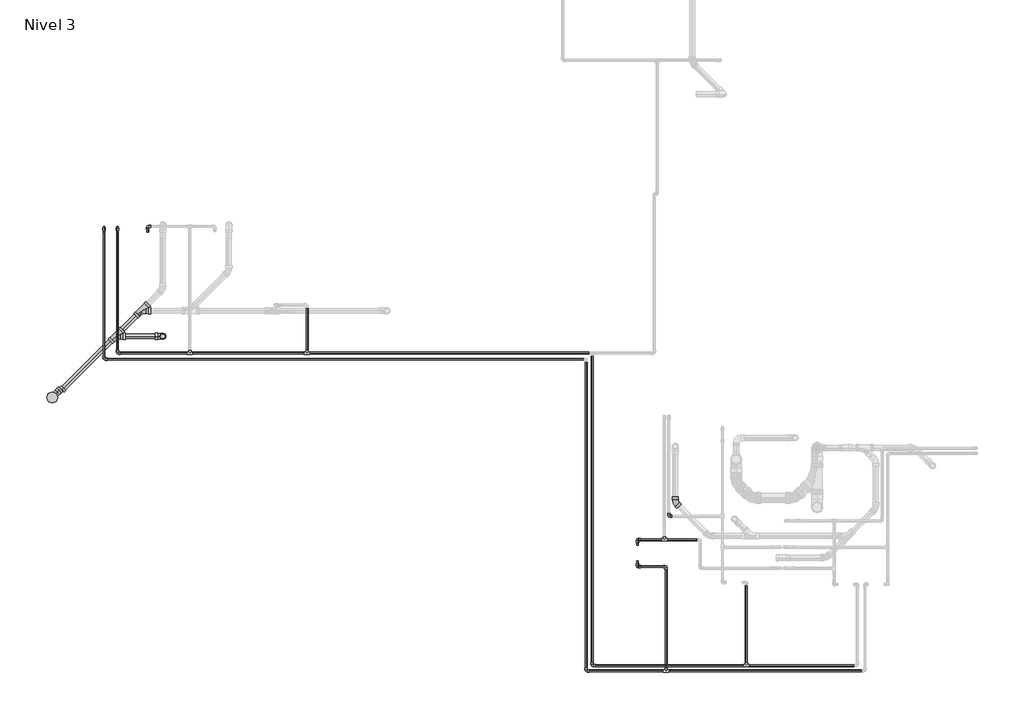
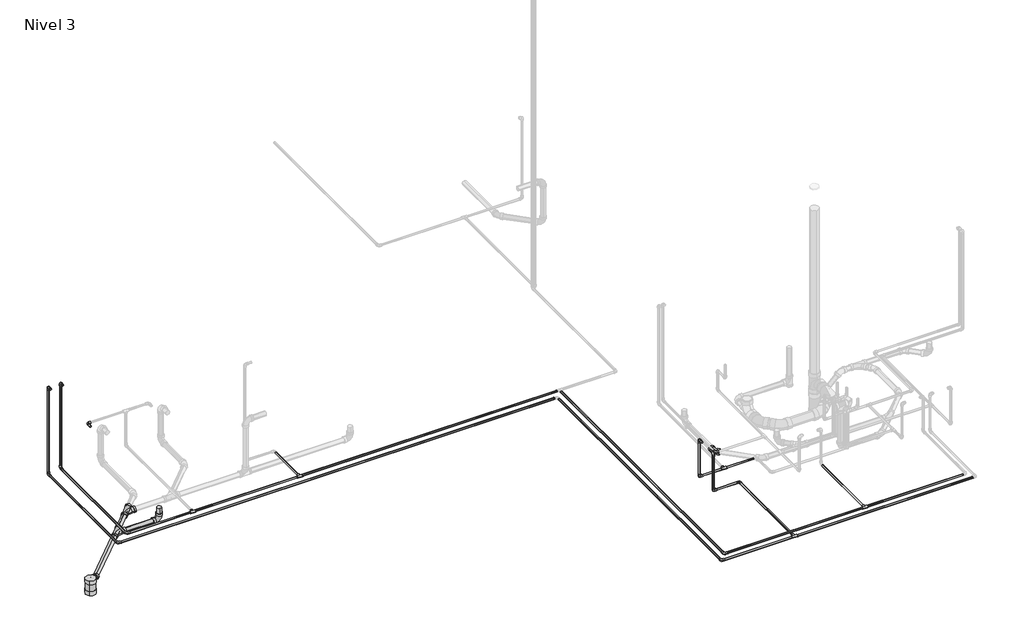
# One storey, part 1 of 9: 31 pipe segments, 26 pipe fittings.
"""IFC4 building model written with IfcOpenShell, lengths in millimetres."""

from ifc_helpers import new_model, si_unit, point, frame, frame_2d, origin, place, context, project, spatial, circle_curve, trimmed, segment, composite_curve, outline, extrude, transform, mapped, element, save
from components import pipe_fitting_ab418b84, pipe_fitting_0163322b, pipe_fitting_f7ed332b, m_codo_pvc_serie_40_9ad74631, m_codo_pvc_serie_40_dwv1_5c0ec739, m_codo_pvc_serie_40_dwv1_6f1a2495, m_reductor_pvc_serie_40_dwv1_ff30086d

model = new_model("IFC4")

# Units and contexts
model_context = context("Model", 3, world=origin())
ifc_project = project(units=[si_unit("LENGTHUNIT", "METRE", prefix="MILLI")], contexts=[model_context])

# Site, building, storey
site = spatial("IfcSite", under=ifc_project)
building = spatial("IfcBuilding", under=site)
storey = spatial("IfcBuildingStorey", under=building, Name="Nivel 3", Elevation=5450.0)

# Pipe fittings
placement = place(None, origin())
pipe_fitting_shape = pipe_fitting_ab418b84(model_context)
element("IfcPipeFitting", 1, ObjectType="M_Te - PVC - Serie 40 : Estándar", at=placement, inside=storey, context=model_context, shape_type="MappedRepresentation", body=[
    mapped(pipe_fitting_shape, transform((1725.1353284, 7617.0181394, 5400.0), x_axis=(1.0, 0.0, 0.0), y_axis=(0.0, -1.0, 0.0), z_axis=(0.0, 0.0, -1.0))),
])
element("IfcPipeFitting", 2, ObjectType="M_Te - PVC - Serie 40 : Estándar", at=placement, inside=storey, context=model_context, shape_type="MappedRepresentation", body=[
    mapped(pipe_fitting_shape, transform((411.6630441, 7617.0181394, 5400.0), x_axis=(1.0, 0.0, 0.0), y_axis=(0.0, -1.0, 0.0), z_axis=(0.0, 0.0, -1.0))),
])
element("IfcPipeFitting", 3, ObjectType="M_Te - PVC - Serie 40 : Estándar", at=placement, inside=storey, context=model_context, shape_type="MappedRepresentation", body=[
    mapped(pipe_fitting_shape, transform((6640.0882468, 4117.0181394, 5400.0), x_axis=(-1.0, 0.0, 0.0), y_axis=(0.0, -1.0, 0.0), z_axis=(0.0, 0.0, 1.0))),
])
element("IfcPipeFitting", 4, ObjectType="M_Te - PVC - Serie 40 : Estándar", at=placement, inside=storey, context=model_context, shape_type="MappedRepresentation", body=[
    mapped(pipe_fitting_shape, transform((5743.2442783, 4058.5261191, 5370.0), x_axis=(-1.0, 0.0, 0.0), y_axis=(0.0, -1.0, 0.0), z_axis=(0.0, 0.0, 1.0))),
])
element("IfcPipeFitting", 5, ObjectType="M_Te - PVC - Serie 40 : Estándar", at=placement, inside=storey, context=model_context, shape_type="MappedRepresentation", body=[
    mapped(pipe_fitting_shape, transform((5723.2442783, 5526.6215833, 5370.0), x_axis=(-1.0, 0.0, 0.0), y_axis=(0.0, -1.0, 0.0), z_axis=(0.0, 0.0, 1.0))),
])
pipe_fitting_2_shape = pipe_fitting_0163322b(model_context)
element("IfcPipeFitting", 6, ObjectType="M_Sanitario con te de reducción - PVC - Serie 40 - DWV : Estándar", at=placement, inside=storey, context=model_context, shape_type="MappedRepresentation", body=[
    mapped(pipe_fitting_2_shape, transform((-133.7971122, 8091.4220022, 5300.0), x_axis=(0.7071067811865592, 0.7071067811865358, 0.0), y_axis=(-0.7071067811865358, 0.7071067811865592, 0.0), z_axis=(0.0, 0.0, 1.0))),
])
element("IfcPipeFitting", 7, ObjectType="M_Sanitario con te de reducción - PVC - Serie 40 - DWV : Estándar", at=placement, inside=storey, context=model_context, shape_type="MappedRepresentation", body=[
    mapped(pipe_fitting_2_shape, transform((-420.2517933, 7804.9673212, 5300.0), x_axis=(0.707106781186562, 0.707106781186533, 0.0), y_axis=(-0.707106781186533, 0.707106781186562, 0.0), z_axis=(0.0, 0.0, 1.0))),
])
pipe_fitting_3_shape = pipe_fitting_f7ed332b(model_context)
element("IfcPipeFitting", 8, ObjectType="M_Sanitario con te de reducción - PVC - Serie 40 - DWV : Estándar", at=placement, inside=storey, context=model_context, shape_type="MappedRepresentation", body=[
    mapped(pipe_fitting_3_shape, transform((-1128.3876566, 7119.3043981, 5300.0), x_axis=(0.0, 0.0, 1.0), y_axis=(-0.7071067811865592, -0.7071067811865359, 0.0), z_axis=(0.7071067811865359, -0.7071067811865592, 0.0))),
])
m_codo_pvc_serie_40_shape = m_codo_pvc_serie_40_9ad74631(model_context)
element("IfcPipeFitting", 9, ObjectType="M_Codo - PVC - Serie 40 : Estándar", at=placement, inside=storey, context=model_context, shape_type="MappedRepresentation", body=[
    mapped(m_codo_pvc_serie_40_shape, transform((-58.7971122, 9037.0181394, 5850.0), x_axis=(-1.0, 0.0, 0.0), y_axis=(0.0, -1.0, 0.0), z_axis=(0.0, 0.0, 1.0))),
])
element("IfcPipeFitting", 10, ObjectType="M_Codo - PVC - Serie 40 : Estándar", at=placement, inside=storey, context=model_context, shape_type="MappedRepresentation", body=[
    mapped(m_codo_pvc_serie_40_shape, transform((4915.0072403, 4117.0181394, 5400.0), x_axis=(0.0, -1.0, 0.0), y_axis=(1.0, 0.0, 0.0), z_axis=(0.0, 0.0, 1.0))),
])
element("IfcPipeFitting", 11, ObjectType="M_Codo - PVC - Serie 40 : Estándar", at=placement, inside=storey, context=model_context, shape_type="MappedRepresentation", body=[
    mapped(m_codo_pvc_serie_40_shape, transform((5773.4849581, 5788.5620607, 5400.0), x_axis=(0.0, -1.0, 0.0), y_axis=(1.0, 0.0, 0.0), z_axis=(0.0, 0.0, 1.0))),
])
element("IfcPipeFitting", 12, ObjectType="M_Codo - PVC - Serie 40 : Estándar", at=placement, inside=storey, context=model_context, shape_type="MappedRepresentation", body=[
    mapped(m_codo_pvc_serie_40_shape, transform((4848.2736664, 4058.5261191, 5370.0), x_axis=(0.0, -1.0, 0.0), y_axis=(1.0, 0.0, 0.0), z_axis=(0.0, 0.0, 1.0))),
])
element("IfcPipeFitting", 13, ObjectType="M_Codo - PVC - Serie 40 : Estándar", at=placement, inside=storey, context=model_context, shape_type="MappedRepresentation", body=[
    mapped(m_codo_pvc_serie_40_shape, transform((5743.2442783, 5226.6215833, 5370.0), x_axis=(0.0, 1.0, 0.0), y_axis=(-1.0, 0.0, 0.0), z_axis=(0.0, 0.0, 1.0))),
])
element("IfcPipeFitting", 14, ObjectType="M_Codo - PVC - Serie 40 : Estándar", at=placement, inside=storey, context=model_context, shape_type="MappedRepresentation", body=[
    mapped(m_codo_pvc_serie_40_shape, transform((5423.2442783, 5226.6215833, 5370.0), x_axis=(-1.0, 0.0, 0.0), y_axis=(0.0, 0.0, 1.0), z_axis=(0.0, 1.0, 0.0))),
])
element("IfcPipeFitting", 15, ObjectType="M_Codo - PVC - Serie 40 : Estándar", at=placement, inside=storey, context=model_context, shape_type="MappedRepresentation", body=[
    mapped(m_codo_pvc_serie_40_shape, transform((5423.2442783, 5226.6215833, 5850.0), x_axis=(0.0, 0.0, 1.0), y_axis=(0.0, 1.0, 0.0), z_axis=(-1.0, 0.0, 0.0))),
])
element("IfcPipeFitting", 16, ObjectType="M_Codo - PVC - Serie 40 : Estándar", at=placement, inside=storey, context=model_context, shape_type="MappedRepresentation", body=[
    mapped(m_codo_pvc_serie_40_shape, transform((5423.2442783, 5526.6215833, 5850.0), x_axis=(0.0, 1.0, 0.0), y_axis=(0.0, 0.0, -1.0), z_axis=(-1.0, 0.0, 0.0))),
])
element("IfcPipeFitting", 17, ObjectType="M_Codo - PVC - Serie 40 : Estándar", at=placement, inside=storey, context=model_context, shape_type="MappedRepresentation", body=[
    mapped(m_codo_pvc_serie_40_shape, transform((5423.2442783, 5526.6215833, 5370.0), x_axis=(0.0, 0.0, -1.0), y_axis=(1.0, 0.0, 0.0), z_axis=(0.0, -1.0, 0.0))),
])
element("IfcPipeFitting", 18, ObjectType="M_Codo - PVC - Serie 40 : Estándar", at=placement, inside=storey, context=model_context, shape_type="MappedRepresentation", body=[
    mapped(m_codo_pvc_serie_40_shape, transform((-397.4678009, 9023.6516968, 6500.0), x_axis=(0.0, 1.0, 0.0), y_axis=(0.0, 0.0, -1.0), z_axis=(-1.0, 0.0, 0.0))),
])
element("IfcPipeFitting", 19, ObjectType="M_Codo - PVC - Serie 40 : Estándar", at=placement, inside=storey, context=model_context, shape_type="MappedRepresentation", body=[
    mapped(m_codo_pvc_serie_40_shape, transform((-397.4678009, 9023.6516968, 5400.0), x_axis=(0.0, 0.0, -1.0), y_axis=(0.0, -1.0, 0.0), z_axis=(-1.0, 0.0, 0.0))),
])
element("IfcPipeFitting", 20, ObjectType="M_Codo - PVC - Serie 40 : Estándar", at=placement, inside=storey, context=model_context, shape_type="MappedRepresentation", body=[
    mapped(m_codo_pvc_serie_40_shape, transform((-547.4678009, 9023.6516968, 6500.0), x_axis=(0.0, 1.0, 0.0), y_axis=(0.0, 0.0, -1.0), z_axis=(-1.0, 0.0, 0.0))),
])
element("IfcPipeFitting", 21, ObjectType="M_Codo - PVC - Serie 40 : Estándar", at=placement, inside=storey, context=model_context, shape_type="MappedRepresentation", body=[
    mapped(m_codo_pvc_serie_40_shape, transform((-547.4678009, 9023.6516968, 5370.0), x_axis=(0.0, 0.0, -1.0), y_axis=(0.0, -1.0, 0.0), z_axis=(-1.0, 0.0, 0.0))),
])
element("IfcPipeFitting", 22, ObjectType="M_Codo - PVC - Serie 40 : Estándar", at=placement, inside=storey, context=model_context, shape_type="MappedRepresentation", body=[
    mapped(m_codo_pvc_serie_40_shape, transform((-547.4678009, 7548.5261191, 5370.0), x_axis=(0.0, -1.0, 0.0), y_axis=(1.0, 0.0, 0.0), z_axis=(0.0, 0.0, 1.0))),
])
element("IfcPipeFitting", 23, ObjectType="M_Codo - PVC - Serie 40 : Estándar", at=placement, inside=storey, context=model_context, shape_type="MappedRepresentation", body=[
    mapped(m_codo_pvc_serie_40_shape, transform((-397.4678009, 7617.0181394, 5400.0), x_axis=(0.0, -1.0, 0.0), y_axis=(1.0, 0.0, 0.0), z_axis=(0.0, 0.0, 1.0))),
])
m_codo_pvc_serie_40_dwv1_shape = m_codo_pvc_serie_40_dwv1_5c0ec739(model_context)
element("IfcPipeFitting", 24, ObjectType="M_Codo - PVC - Serie 40 - DWV1 : Estándar 2", at=placement, inside=storey, context=model_context, shape_type="MappedRepresentation", body=[
    mapped(m_codo_pvc_serie_40_dwv1_shape, transform((109.5958692, 7804.9673212, 5300.0), x_axis=(1.0, 0.0, 0.0), y_axis=(0.0, 0.0, 1.0), z_axis=(0.0, -1.0, 0.0))),
])
m_codo_pvc_serie_40_dwv1_2_shape = m_codo_pvc_serie_40_dwv1_6f1a2495(model_context)
element("IfcPipeFitting", 25, ObjectType="M_Codo - PVC - Serie 40 - DWV1 : Estándar 2", at=placement, inside=storey, context=model_context, shape_type="MappedRepresentation", body=[
    mapped(m_codo_pvc_serie_40_dwv1_2_shape, transform((5845.3355737, 5944.0282832, 5300.0), x_axis=(0.0, -1.0, 0.0), y_axis=(1.0, 0.0, 0.0), z_axis=(0.0, 0.0, 1.0))),
])
m_reductor_pvc_serie_40_dwv1_shape = m_reductor_pvc_serie_40_dwv1_ff30086d(model_context)
element("IfcPipeFitting", 26, ObjectType="M_Reductor - PVC - Serie 40 - DWV1 : Estándar 2", at=placement, inside=storey, context=model_context, shape_type="MappedRepresentation", body=[
    mapped(m_reductor_pvc_serie_40_dwv1_shape, transform((-1051.5138579, 7196.1781968, 5300.0), x_axis=(0.7071067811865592, 0.7071067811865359, 0.0), y_axis=(-0.7071067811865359, 0.7071067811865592, 0.0), z_axis=(0.0, 0.0, 1.0))),
])

# Pipe segments
element("IfcPipeSegment", 27, ObjectType="Tuberia PVC Agua Fria", at=placement, inside=storey, context=model_context, shape_type="SweptSolid", body=[
    extrude(outline(composite_curve([segment(trimmed(circle_curve(frame_2d((5400.0, 1725.1353284)), 10.31875), [point((5400.0, 1735.4540784))], [point((5410.31875, 1725.1353284))], False, "CARTESIAN"), True, "CONTINUOUS"), segment(trimmed(circle_curve(frame_2d((5400.0, 1725.1353284)), 10.31875), [point((5410.31875, 1725.1353284))], [point((5400.0, 1714.8165784))], False, "CARTESIAN"), True, "CONTINUOUS"), segment(trimmed(circle_curve(frame_2d((5400.0, 1725.1353284)), 10.31875), [point((5400.0, 1714.8165784))], [point((5389.68125, 1725.1353284))], False, "CARTESIAN"), True, "CONTINUOUS"), segment(trimmed(circle_curve(frame_2d((5400.0, 1725.1353284)), 10.31875), [point((5389.68125, 1725.1353284))], [point((5400.0, 1735.4540784))], False, "CARTESIAN"), True, "CONTINUOUS")], self_intersect=False)), frame((0.0, 7647.4782956, 0.0), z_axis=(0.0, 1.0, 0.0), x_axis=(0.0, 0.0, 1.0)), (0.0, 0.0, 1.0), 476.1388438),
])
element("IfcPipeSegment", 28, ObjectType="Tuberia PVC Agua Fria", at=placement, inside=storey, context=model_context, shape_type="SweptSolid", body=[
    extrude(outline(composite_curve([segment(trimmed(circle_curve(frame_2d((7617.0181394, 5400.0)), 10.31875), [point((7627.3368894, 5400.0))], [point((7617.0181394, 5389.68125))], False, "CARTESIAN"), True, "CONTINUOUS"), segment(trimmed(circle_curve(frame_2d((7617.0181394, 5400.0)), 10.31875), [point((7617.0181394, 5389.68125))], [point((7606.6993894, 5400.0))], False, "CARTESIAN"), True, "CONTINUOUS"), segment(trimmed(circle_curve(frame_2d((7617.0181394, 5400.0)), 10.31875), [point((7606.6993894, 5400.0))], [point((7617.0181394, 5410.31875))], False, "CARTESIAN"), True, "CONTINUOUS"), segment(trimmed(circle_curve(frame_2d((7617.0181394, 5400.0)), 10.31875), [point((7617.0181394, 5410.31875))], [point((7627.3368894, 5400.0))], False, "CARTESIAN"), True, "CONTINUOUS")], self_intersect=False)), frame((1755.5954847, 0.0, 0.0), z_axis=(1.0, 0.0, 0.0), x_axis=(0.0, 1.0, 0.0)), (0.0, 0.0, 1.0), 3128.9515994),
])
element("IfcPipeSegment", 29, ObjectType="Tuberia PVC Agua Fria", at=placement, inside=storey, context=model_context, shape_type="SweptSolid", body=[
    extrude(outline(composite_curve([segment(trimmed(circle_curve(frame_2d((7617.0181394, 5400.0)), 10.31875), [point((7627.3368894, 5400.0))], [point((7617.0181394, 5389.68125))], False, "CARTESIAN"), True, "CONTINUOUS"), segment(trimmed(circle_curve(frame_2d((7617.0181394, 5400.0)), 10.31875), [point((7617.0181394, 5389.68125))], [point((7606.6993894, 5400.0))], False, "CARTESIAN"), True, "CONTINUOUS"), segment(trimmed(circle_curve(frame_2d((7617.0181394, 5400.0)), 10.31875), [point((7606.6993894, 5400.0))], [point((7617.0181394, 5410.31875))], False, "CARTESIAN"), True, "CONTINUOUS"), segment(trimmed(circle_curve(frame_2d((7617.0181394, 5400.0)), 10.31875), [point((7617.0181394, 5410.31875))], [point((7627.3368894, 5400.0))], False, "CARTESIAN"), True, "CONTINUOUS")], self_intersect=False)), frame((-364.0668009, 0.0, 0.0), z_axis=(1.0, 0.0, 0.0), x_axis=(0.0, 1.0, 0.0)), (0.0, 0.0, 1.0), 745.2696887),
])
element("IfcPipeSegment", 30, ObjectType="Tuberia PVC Agua Fria", at=placement, inside=storey, context=model_context, shape_type="SweptSolid", body=[
    extrude(outline(composite_curve([segment(trimmed(circle_curve(frame_2d((7617.0181394, 5400.0)), 10.31875), [point((7627.3368894, 5400.0))], [point((7617.0181394, 5389.68125))], False, "CARTESIAN"), True, "CONTINUOUS"), segment(trimmed(circle_curve(frame_2d((7617.0181394, 5400.0)), 10.31875), [point((7617.0181394, 5389.68125))], [point((7606.6993894, 5400.0))], False, "CARTESIAN"), True, "CONTINUOUS"), segment(trimmed(circle_curve(frame_2d((7617.0181394, 5400.0)), 10.31875), [point((7606.6993894, 5400.0))], [point((7617.0181394, 5410.31875))], False, "CARTESIAN"), True, "CONTINUOUS"), segment(trimmed(circle_curve(frame_2d((7617.0181394, 5400.0)), 10.31875), [point((7617.0181394, 5410.31875))], [point((7627.3368894, 5400.0))], False, "CARTESIAN"), True, "CONTINUOUS")], self_intersect=False)), frame((442.1232003, 0.0, 0.0), z_axis=(1.0, 0.0, 0.0), x_axis=(0.0, 1.0, 0.0)), (0.0, 0.0, 1.0), 1252.5519718),
])
element("IfcPipeSegment", 31, ObjectType="Tuberia PVC Agua Fria", at=placement, inside=storey, context=model_context, shape_type="SweptSolid", body=[
    extrude(outline(composite_curve([segment(trimmed(circle_curve(frame_2d((5850.0, -58.7971122)), 10.31875), [point((5850.0, -69.1158622))], [point((5839.68125, -58.7971122))], False, "CARTESIAN"), True, "CONTINUOUS"), segment(trimmed(circle_curve(frame_2d((5850.0, -58.7971122)), 10.31875), [point((5839.68125, -58.7971122))], [point((5850.0, -48.4783622))], False, "CARTESIAN"), True, "CONTINUOUS"), segment(trimmed(circle_curve(frame_2d((5850.0, -58.7971122)), 10.31875), [point((5850.0, -48.4783622))], [point((5860.31875, -58.7971122))], False, "CARTESIAN"), True, "CONTINUOUS"), segment(trimmed(circle_curve(frame_2d((5850.0, -58.7971122)), 10.31875), [point((5860.31875, -58.7971122))], [point((5850.0, -69.1158622))], False, "CARTESIAN"), True, "CONTINUOUS")], self_intersect=False)), frame((0.0, 8972.0181394, 0.0), z_axis=(0.0, 1.0, 0.0), x_axis=(0.0, 0.0, 1.0)), (0.0, 0.0, 1.0), 31.599),
])
element("IfcPipeSegment", 32, ObjectType="Tuberia PVC Agua Fria", at=placement, inside=storey, context=model_context, shape_type="SweptSolid", body=[
    extrude(outline(composite_curve([segment(trimmed(circle_curve(frame_2d((5400.0, 4915.0072403)), 10.31875), [point((5400.0, 4904.6884903))], [point((5389.68125, 4915.0072403))], False, "CARTESIAN"), True, "CONTINUOUS"), segment(trimmed(circle_curve(frame_2d((5400.0, 4915.0072403)), 10.31875), [point((5389.68125, 4915.0072403))], [point((5400.0, 4925.3259903))], False, "CARTESIAN"), True, "CONTINUOUS"), segment(trimmed(circle_curve(frame_2d((5400.0, 4915.0072403)), 10.31875), [point((5400.0, 4925.3259903))], [point((5410.31875, 4915.0072403))], False, "CARTESIAN"), True, "CONTINUOUS"), segment(trimmed(circle_curve(frame_2d((5400.0, 4915.0072403)), 10.31875), [point((5410.31875, 4915.0072403))], [point((5400.0, 4904.6884903))], False, "CARTESIAN"), True, "CONTINUOUS")], self_intersect=False)), frame((0.0, 4150.4191394, 0.0), z_axis=(0.0, 1.0, 0.0), x_axis=(0.0, 0.0, 1.0)), (0.0, 0.0, 1.0), 3436.1388437),
])
element("IfcPipeSegment", 33, ObjectType="Tuberia PVC Agua Fria", at=placement, inside=storey, context=model_context, shape_type="SweptSolid", body=[
    extrude(outline(composite_curve([segment(trimmed(circle_curve(frame_2d((4117.0181394, 5400.0)), 10.31875), [point((4127.3368894, 5400.0))], [point((4117.0181394, 5389.68125))], False, "CARTESIAN"), True, "CONTINUOUS"), segment(trimmed(circle_curve(frame_2d((4117.0181394, 5400.0)), 10.31875), [point((4117.0181394, 5389.68125))], [point((4106.6993894, 5400.0))], False, "CARTESIAN"), True, "CONTINUOUS"), segment(trimmed(circle_curve(frame_2d((4117.0181394, 5400.0)), 10.31875), [point((4106.6993894, 5400.0))], [point((4117.0181394, 5410.31875))], False, "CARTESIAN"), True, "CONTINUOUS"), segment(trimmed(circle_curve(frame_2d((4117.0181394, 5400.0)), 10.31875), [point((4117.0181394, 5410.31875))], [point((4127.3368894, 5400.0))], False, "CARTESIAN"), True, "CONTINUOUS")], self_intersect=False)), frame((6670.5484031, 0.0, 0.0), z_axis=(1.0, 0.0, 0.0), x_axis=(0.0, 1.0, 0.0)), (0.0, 0.0, 1.0), 1178.9730095),
])
element("IfcPipeSegment", 34, ObjectType="Tuberia PVC Agua Fria", at=placement, inside=storey, context=model_context, shape_type="SweptSolid", body=[
    extrude(outline(composite_curve([segment(trimmed(circle_curve(frame_2d((5400.0, 6640.0882468)), 10.31875), [point((5400.0, 6650.4069968))], [point((5410.31875, 6640.0882468))], False, "CARTESIAN"), True, "CONTINUOUS"), segment(trimmed(circle_curve(frame_2d((5400.0, 6640.0882468)), 10.31875), [point((5410.31875, 6640.0882468))], [point((5400.0, 6629.7694968))], False, "CARTESIAN"), True, "CONTINUOUS"), segment(trimmed(circle_curve(frame_2d((5400.0, 6640.0882468)), 10.31875), [point((5400.0, 6629.7694968))], [point((5389.68125, 6640.0882468))], False, "CARTESIAN"), True, "CONTINUOUS"), segment(trimmed(circle_curve(frame_2d((5400.0, 6640.0882468)), 10.31875), [point((5389.68125, 6640.0882468))], [point((5400.0, 6650.4069968))], False, "CARTESIAN"), True, "CONTINUOUS")], self_intersect=False)), frame((0.0, 4147.4782956, 0.0), z_axis=(0.0, 1.0, 0.0), x_axis=(0.0, 0.0, 1.0)), (0.0, 0.0, 1.0), 866.1388437),
])
element("IfcPipeSegment", 35, ObjectType="Tuberia PVC Agua Fria", at=placement, inside=storey, context=model_context, shape_type="SweptSolid", body=[
    extrude(outline(composite_curve([segment(trimmed(circle_curve(frame_2d((4117.0181394, 5400.0)), 10.31875), [point((4106.6993894, 5400.0))], [point((4117.0181394, 5410.31875))], False, "CARTESIAN"), True, "CONTINUOUS"), segment(trimmed(circle_curve(frame_2d((4117.0181394, 5400.0)), 10.31875), [point((4117.0181394, 5410.31875))], [point((4127.3368894, 5400.0))], False, "CARTESIAN"), True, "CONTINUOUS"), segment(trimmed(circle_curve(frame_2d((4117.0181394, 5400.0)), 10.31875), [point((4127.3368894, 5400.0))], [point((4117.0181394, 5389.68125))], False, "CARTESIAN"), True, "CONTINUOUS"), segment(trimmed(circle_curve(frame_2d((4117.0181394, 5400.0)), 10.31875), [point((4117.0181394, 5389.68125))], [point((4106.6993894, 5400.0))], False, "CARTESIAN"), True, "CONTINUOUS")], self_intersect=False)), frame((4948.4082403, 0.0, 0.0), z_axis=(1.0, 0.0, 0.0), x_axis=(0.0, 1.0, 0.0)), (0.0, 0.0, 1.0), 1661.2198503),
])
element("IfcPipeSegment", 36, ObjectType="Tuberia PVC Agua Fria", at=placement, inside=storey, context=model_context, shape_type="SweptSolid", body=[
    extrude(outline(composite_curve([segment(trimmed(circle_curve(frame_2d((5400.0, -397.4678009)), 10.31875), [point((5400.0, -407.7865509))], [point((5389.68125, -397.4678009))], False, "CARTESIAN"), True, "CONTINUOUS"), segment(trimmed(circle_curve(frame_2d((5400.0, -397.4678009)), 10.31875), [point((5389.68125, -397.4678009))], [point((5400.0, -387.1490509))], False, "CARTESIAN"), True, "CONTINUOUS"), segment(trimmed(circle_curve(frame_2d((5400.0, -397.4678009)), 10.31875), [point((5400.0, -387.1490509))], [point((5410.31875, -397.4678009))], False, "CARTESIAN"), True, "CONTINUOUS"), segment(trimmed(circle_curve(frame_2d((5400.0, -397.4678009)), 10.31875), [point((5410.31875, -397.4678009))], [point((5400.0, -407.7865509))], False, "CARTESIAN"), True, "CONTINUOUS")], self_intersect=False)), frame((0.0, 7650.4191394, 0.0), z_axis=(0.0, 1.0, 0.0), x_axis=(0.0, 0.0, 1.0)), (0.0, 0.0, 1.0), 1339.8315575),
])
element("IfcPipeSegment", 37, ObjectType="Tuberia PVC Agua Fria", at=placement, inside=storey, context=model_context, shape_type="SweptSolid", body=[
    extrude(outline(composite_curve([segment(trimmed(circle_curve(frame_2d((6500.0, -397.4678009)), 10.31875), [point((6500.0, -387.1490509))], [point((6510.31875, -397.4678009))], False, "CARTESIAN"), True, "CONTINUOUS"), segment(trimmed(circle_curve(frame_2d((6500.0, -397.4678009)), 10.31875), [point((6510.31875, -397.4678009))], [point((6500.0, -407.7865509))], False, "CARTESIAN"), True, "CONTINUOUS"), segment(trimmed(circle_curve(frame_2d((6500.0, -397.4678009)), 10.31875), [point((6500.0, -407.7865509))], [point((6489.68125, -397.4678009))], False, "CARTESIAN"), True, "CONTINUOUS"), segment(trimmed(circle_curve(frame_2d((6500.0, -397.4678009)), 10.31875), [point((6489.68125, -397.4678009))], [point((6500.0, -387.1490509))], False, "CARTESIAN"), True, "CONTINUOUS")], self_intersect=False)), frame((0.0, 8973.6516968, 0.0), z_axis=(0.0, 1.0, 0.0), x_axis=(0.0, 0.0, 1.0)), (0.0, 0.0, 1.0), 16.599),
])
element("IfcPipeSegment", 38, ObjectType="Tuberia PVC Agua Fria", at=placement, inside=storey, context=model_context, shape_type="SweptSolid", body=[
    extrude(outline(composite_curve([segment(trimmed(circle_curve(frame_2d((-397.4678009, 9023.6516968)), 10.31875), [point((-387.1490509, 9023.6516968))], [point((-397.4678009, 9013.3329468))], False, "CARTESIAN"), True, "CONTINUOUS"), segment(trimmed(circle_curve(frame_2d((-397.4678009, 9023.6516968)), 10.31875), [point((-397.4678009, 9013.3329468))], [point((-407.7865509, 9023.6516968))], False, "CARTESIAN"), True, "CONTINUOUS"), segment(trimmed(circle_curve(frame_2d((-397.4678009, 9023.6516968)), 10.31875), [point((-407.7865509, 9023.6516968))], [point((-397.4678009, 9033.9704468))], False, "CARTESIAN"), True, "CONTINUOUS"), segment(trimmed(circle_curve(frame_2d((-397.4678009, 9023.6516968)), 10.31875), [point((-397.4678009, 9033.9704468))], [point((-387.1490509, 9023.6516968))], False, "CARTESIAN"), True, "CONTINUOUS")], self_intersect=False)), frame((0.0, 0.0, 5433.401), z_axis=(0.0, 0.0, 1.0), x_axis=(1.0, 0.0, 0.0)), (0.0, 0.0, 1.0), 1033.198),
])
element("IfcPipeSegment", 39, ObjectType="Tuberia PVC Agua Caliente", at=placement, inside=storey, context=model_context, shape_type="SweptSolid", body=[
    extrude(outline(composite_curve([segment(trimmed(circle_curve(frame_2d((7548.5261191, 5370.0)), 10.31875), [point((7538.2073691, 5370.0))], [point((7548.5261191, 5380.31875))], False, "CARTESIAN"), True, "CONTINUOUS"), segment(trimmed(circle_curve(frame_2d((7548.5261191, 5370.0)), 10.31875), [point((7548.5261191, 5380.31875))], [point((7558.8448691, 5370.0))], False, "CARTESIAN"), True, "CONTINUOUS"), segment(trimmed(circle_curve(frame_2d((7548.5261191, 5370.0)), 10.31875), [point((7558.8448691, 5370.0))], [point((7548.5261191, 5359.68125))], False, "CARTESIAN"), True, "CONTINUOUS"), segment(trimmed(circle_curve(frame_2d((7548.5261191, 5370.0)), 10.31875), [point((7548.5261191, 5359.68125))], [point((7538.2073691, 5370.0))], False, "CARTESIAN"), True, "CONTINUOUS")], self_intersect=False)), frame((-514.0668009, 0.0, 0.0), z_axis=(1.0, 0.0, 0.0), x_axis=(0.0, 1.0, 0.0)), (0.0, 0.0, 1.0), 5328.9394673),
])
element("IfcPipeSegment", 40, ObjectType="Tuberia PVC Agua Caliente", at=placement, inside=storey, context=model_context, shape_type="SweptSolid", body=[
    extrude(outline(composite_curve([segment(trimmed(circle_curve(frame_2d((5370.0, 4848.2736664)), 10.31875), [point((5370.0, 4837.9549164))], [point((5359.68125, 4848.2736664))], False, "CARTESIAN"), True, "CONTINUOUS"), segment(trimmed(circle_curve(frame_2d((5370.0, 4848.2736664)), 10.31875), [point((5359.68125, 4848.2736664))], [point((5370.0, 4858.5924164))], False, "CARTESIAN"), True, "CONTINUOUS"), segment(trimmed(circle_curve(frame_2d((5370.0, 4848.2736664)), 10.31875), [point((5370.0, 4858.5924164))], [point((5380.31875, 4848.2736664))], False, "CARTESIAN"), True, "CONTINUOUS"), segment(trimmed(circle_curve(frame_2d((5370.0, 4848.2736664)), 10.31875), [point((5380.31875, 4848.2736664))], [point((5370.0, 4837.9549164))], False, "CARTESIAN"), True, "CONTINUOUS")], self_intersect=False)), frame((0.0, 4091.9271191, 0.0), z_axis=(0.0, 1.0, 0.0), x_axis=(0.0, 0.0, 1.0)), (0.0, 0.0, 1.0), 3423.198),
])
element("IfcPipeSegment", 41, ObjectType="Tuberia PVC Agua Caliente", at=placement, inside=storey, context=model_context, shape_type="SweptSolid", body=[
    extrude(outline(composite_curve([segment(trimmed(circle_curve(frame_2d((4058.5261191, 5370.0)), 10.31875), [point((4048.2073691, 5370.0))], [point((4058.5261191, 5380.31875))], False, "CARTESIAN"), True, "CONTINUOUS"), segment(trimmed(circle_curve(frame_2d((4058.5261191, 5370.0)), 10.31875), [point((4058.5261191, 5380.31875))], [point((4068.8448691, 5370.0))], False, "CARTESIAN"), True, "CONTINUOUS"), segment(trimmed(circle_curve(frame_2d((4058.5261191, 5370.0)), 10.31875), [point((4068.8448691, 5370.0))], [point((4058.5261191, 5359.68125))], False, "CARTESIAN"), True, "CONTINUOUS"), segment(trimmed(circle_curve(frame_2d((4058.5261191, 5370.0)), 10.31875), [point((4058.5261191, 5359.68125))], [point((4048.2073691, 5370.0))], False, "CARTESIAN"), True, "CONTINUOUS")], self_intersect=False)), frame((5773.7044346, 0.0, 0.0), z_axis=(1.0, 0.0, 0.0), x_axis=(0.0, 1.0, 0.0)), (0.0, 0.0, 1.0), 2161.1682318),
])
element("IfcPipeSegment", 42, ObjectType="Tuberia PVC Agua Caliente", at=placement, inside=storey, context=model_context, shape_type="SweptSolid", body=[
    extrude(outline(composite_curve([segment(trimmed(circle_curve(frame_2d((5370.0, 5743.2442783)), 10.31875), [point((5370.0, 5753.5630283))], [point((5380.31875, 5743.2442783))], False, "CARTESIAN"), True, "CONTINUOUS"), segment(trimmed(circle_curve(frame_2d((5370.0, 5743.2442783)), 10.31875), [point((5380.31875, 5743.2442783))], [point((5370.0, 5732.9255283))], False, "CARTESIAN"), True, "CONTINUOUS"), segment(trimmed(circle_curve(frame_2d((5370.0, 5743.2442783)), 10.31875), [point((5370.0, 5732.9255283))], [point((5359.68125, 5743.2442783))], False, "CARTESIAN"), True, "CONTINUOUS"), segment(trimmed(circle_curve(frame_2d((5370.0, 5743.2442783)), 10.31875), [point((5359.68125, 5743.2442783))], [point((5370.0, 5753.5630283))], False, "CARTESIAN"), True, "CONTINUOUS")], self_intersect=False)), frame((0.0, 4088.9862753, 0.0), z_axis=(0.0, 1.0, 0.0), x_axis=(0.0, 0.0, 1.0)), (0.0, 0.0, 1.0), 1104.234308),
])
element("IfcPipeSegment", 43, ObjectType="Tuberia PVC Agua Caliente", at=placement, inside=storey, context=model_context, shape_type="SweptSolid", body=[
    extrude(outline(composite_curve([segment(trimmed(circle_curve(frame_2d((4058.5261191, 5370.0)), 10.31875), [point((4048.2073691, 5370.0))], [point((4058.5261191, 5380.31875))], False, "CARTESIAN"), True, "CONTINUOUS"), segment(trimmed(circle_curve(frame_2d((4058.5261191, 5370.0)), 10.31875), [point((4058.5261191, 5380.31875))], [point((4068.8448691, 5370.0))], False, "CARTESIAN"), True, "CONTINUOUS"), segment(trimmed(circle_curve(frame_2d((4058.5261191, 5370.0)), 10.31875), [point((4068.8448691, 5370.0))], [point((4058.5261191, 5359.68125))], False, "CARTESIAN"), True, "CONTINUOUS"), segment(trimmed(circle_curve(frame_2d((4058.5261191, 5370.0)), 10.31875), [point((4058.5261191, 5359.68125))], [point((4048.2073691, 5370.0))], False, "CARTESIAN"), True, "CONTINUOUS")], self_intersect=False)), frame((4881.6746664, 0.0, 0.0), z_axis=(1.0, 0.0, 0.0), x_axis=(0.0, 1.0, 0.0)), (0.0, 0.0, 1.0), 831.1094557),
])
element("IfcPipeSegment", 44, ObjectType="Tuberia PVC Agua Caliente", at=placement, inside=storey, context=model_context, shape_type="SweptSolid", body=[
    extrude(outline(composite_curve([segment(trimmed(circle_curve(frame_2d((5226.6215833, 5370.0)), 10.31875), [point((5236.9403333, 5370.0))], [point((5226.6215833, 5359.68125))], False, "CARTESIAN"), True, "CONTINUOUS"), segment(trimmed(circle_curve(frame_2d((5226.6215833, 5370.0)), 10.31875), [point((5226.6215833, 5359.68125))], [point((5216.3028333, 5370.0))], False, "CARTESIAN"), True, "CONTINUOUS"), segment(trimmed(circle_curve(frame_2d((5226.6215833, 5370.0)), 10.31875), [point((5216.3028333, 5370.0))], [point((5226.6215833, 5380.31875))], False, "CARTESIAN"), True, "CONTINUOUS"), segment(trimmed(circle_curve(frame_2d((5226.6215833, 5370.0)), 10.31875), [point((5226.6215833, 5380.31875))], [point((5236.9403333, 5370.0))], False, "CARTESIAN"), True, "CONTINUOUS")], self_intersect=False)), frame((5456.6452783, 0.0, 0.0), z_axis=(1.0, 0.0, 0.0), x_axis=(0.0, 1.0, 0.0)), (0.0, 0.0, 1.0), 253.198),
])
element("IfcPipeSegment", 45, ObjectType="Tuberia PVC Agua Caliente", at=placement, inside=storey, context=model_context, shape_type="SweptSolid", body=[
    extrude(outline(composite_curve([segment(trimmed(circle_curve(frame_2d((5850.0, 5423.2442783)), 10.31875), [point((5850.0, 5433.5630283))], [point((5860.31875, 5423.2442783))], False, "CARTESIAN"), True, "CONTINUOUS"), segment(trimmed(circle_curve(frame_2d((5850.0, 5423.2442783)), 10.31875), [point((5860.31875, 5423.2442783))], [point((5850.0, 5412.9255283))], False, "CARTESIAN"), True, "CONTINUOUS"), segment(trimmed(circle_curve(frame_2d((5850.0, 5423.2442783)), 10.31875), [point((5850.0, 5412.9255283))], [point((5839.68125, 5423.2442783))], False, "CARTESIAN"), True, "CONTINUOUS"), segment(trimmed(circle_curve(frame_2d((5850.0, 5423.2442783)), 10.31875), [point((5839.68125, 5423.2442783))], [point((5850.0, 5433.5630283))], False, "CARTESIAN"), True, "CONTINUOUS")], self_intersect=False)), frame((0.0, 5465.6215833, 0.0), z_axis=(0.0, 1.0, 0.0), x_axis=(0.0, 0.0, 1.0)), (0.0, 0.0, 1.0), 27.599),
])
element("IfcPipeSegment", 46, ObjectType="Tuberia PVC Agua Caliente", at=placement, inside=storey, context=model_context, shape_type="SweptSolid", body=[
    extrude(outline(composite_curve([segment(trimmed(circle_curve(frame_2d((5423.2442783, 5226.6215833)), 10.31875), [point((5412.9255283, 5226.6215833))], [point((5423.2442783, 5236.9403333))], False, "CARTESIAN"), True, "CONTINUOUS"), segment(trimmed(circle_curve(frame_2d((5423.2442783, 5226.6215833)), 10.31875), [point((5423.2442783, 5236.9403333))], [point((5433.5630283, 5226.6215833))], False, "CARTESIAN"), True, "CONTINUOUS"), segment(trimmed(circle_curve(frame_2d((5423.2442783, 5226.6215833)), 10.31875), [point((5433.5630283, 5226.6215833))], [point((5423.2442783, 5216.3028333))], False, "CARTESIAN"), True, "CONTINUOUS"), segment(trimmed(circle_curve(frame_2d((5423.2442783, 5226.6215833)), 10.31875), [point((5423.2442783, 5216.3028333))], [point((5412.9255283, 5226.6215833))], False, "CARTESIAN"), True, "CONTINUOUS")], self_intersect=False)), frame((0.0, 0.0, 5403.401), z_axis=(0.0, 0.0, 1.0), x_axis=(1.0, 0.0, 0.0)), (0.0, 0.0, 1.0), 413.198),
])
element("IfcPipeSegment", 47, ObjectType="Tuberia PVC Agua Caliente", at=placement, inside=storey, context=model_context, shape_type="SweptSolid", body=[
    extrude(outline(composite_curve([segment(trimmed(circle_curve(frame_2d((5423.2442783, 5526.6215833)), 10.31875), [point((5433.5630283, 5526.6215833))], [point((5423.2442783, 5516.3028333))], False, "CARTESIAN"), True, "CONTINUOUS"), segment(trimmed(circle_curve(frame_2d((5423.2442783, 5526.6215833)), 10.31875), [point((5423.2442783, 5516.3028333))], [point((5412.9255283, 5526.6215833))], False, "CARTESIAN"), True, "CONTINUOUS"), segment(trimmed(circle_curve(frame_2d((5423.2442783, 5526.6215833)), 10.31875), [point((5412.9255283, 5526.6215833))], [point((5423.2442783, 5536.9403333))], False, "CARTESIAN"), True, "CONTINUOUS"), segment(trimmed(circle_curve(frame_2d((5423.2442783, 5526.6215833)), 10.31875), [point((5423.2442783, 5536.9403333))], [point((5433.5630283, 5526.6215833))], False, "CARTESIAN"), True, "CONTINUOUS")], self_intersect=False)), frame((0.0, 0.0, 5403.401), z_axis=(0.0, 0.0, 1.0), x_axis=(1.0, 0.0, 0.0)), (0.0, 0.0, 1.0), 413.198),
])
element("IfcPipeSegment", 48, ObjectType="Tuberia PVC Agua Caliente", at=placement, inside=storey, context=model_context, shape_type="SweptSolid", body=[
    extrude(outline(composite_curve([segment(trimmed(circle_curve(frame_2d((5526.6215833, 5370.0)), 10.31875), [point((5516.3028333, 5370.0))], [point((5526.6215833, 5380.31875))], False, "CARTESIAN"), True, "CONTINUOUS"), segment(trimmed(circle_curve(frame_2d((5526.6215833, 5370.0)), 10.31875), [point((5526.6215833, 5380.31875))], [point((5536.9403333, 5370.0))], False, "CARTESIAN"), True, "CONTINUOUS"), segment(trimmed(circle_curve(frame_2d((5526.6215833, 5370.0)), 10.31875), [point((5536.9403333, 5370.0))], [point((5526.6215833, 5359.68125))], False, "CARTESIAN"), True, "CONTINUOUS"), segment(trimmed(circle_curve(frame_2d((5526.6215833, 5370.0)), 10.31875), [point((5526.6215833, 5359.68125))], [point((5516.3028333, 5370.0))], False, "CARTESIAN"), True, "CONTINUOUS")], self_intersect=False)), frame((5753.7044346, 0.0, 0.0), z_axis=(1.0, 0.0, 0.0), x_axis=(0.0, 1.0, 0.0)), (0.0, 0.0, 1.0), 336.1388438),
])
element("IfcPipeSegment", 49, ObjectType="Tuberia PVC Agua Caliente", at=placement, inside=storey, context=model_context, shape_type="SweptSolid", body=[
    extrude(outline(composite_curve([segment(trimmed(circle_curve(frame_2d((5526.6215833, 5370.0)), 10.31875), [point((5516.3028333, 5370.0))], [point((5526.6215833, 5380.31875))], False, "CARTESIAN"), True, "CONTINUOUS"), segment(trimmed(circle_curve(frame_2d((5526.6215833, 5370.0)), 10.31875), [point((5526.6215833, 5380.31875))], [point((5536.9403333, 5370.0))], False, "CARTESIAN"), True, "CONTINUOUS"), segment(trimmed(circle_curve(frame_2d((5526.6215833, 5370.0)), 10.31875), [point((5536.9403333, 5370.0))], [point((5526.6215833, 5359.68125))], False, "CARTESIAN"), True, "CONTINUOUS"), segment(trimmed(circle_curve(frame_2d((5526.6215833, 5370.0)), 10.31875), [point((5526.6215833, 5359.68125))], [point((5516.3028333, 5370.0))], False, "CARTESIAN"), True, "CONTINUOUS")], self_intersect=False)), frame((5456.6452783, 0.0, 0.0), z_axis=(1.0, 0.0, 0.0), x_axis=(0.0, 1.0, 0.0)), (0.0, 0.0, 1.0), 236.1388438),
])
element("IfcPipeSegment", 50, ObjectType="Tuberia PVC Agua Caliente", at=placement, inside=storey, context=model_context, shape_type="SweptSolid", body=[
    extrude(outline(composite_curve([segment(trimmed(circle_curve(frame_2d((5850.0, 5423.2442783)), 10.31875), [point((5850.0, 5433.5630283))], [point((5860.31875, 5423.2442783))], False, "CARTESIAN"), True, "CONTINUOUS"), segment(trimmed(circle_curve(frame_2d((5850.0, 5423.2442783)), 10.31875), [point((5860.31875, 5423.2442783))], [point((5850.0, 5412.9255283))], False, "CARTESIAN"), True, "CONTINUOUS"), segment(trimmed(circle_curve(frame_2d((5850.0, 5423.2442783)), 10.31875), [point((5850.0, 5412.9255283))], [point((5839.68125, 5423.2442783))], False, "CARTESIAN"), True, "CONTINUOUS"), segment(trimmed(circle_curve(frame_2d((5850.0, 5423.2442783)), 10.31875), [point((5839.68125, 5423.2442783))], [point((5850.0, 5433.5630283))], False, "CARTESIAN"), True, "CONTINUOUS")], self_intersect=False)), frame((0.0, 5260.0225833, 0.0), z_axis=(0.0, 1.0, 0.0), x_axis=(0.0, 0.0, 1.0)), (0.0, 0.0, 1.0), 27.599),
])
element("IfcPipeSegment", 51, ObjectType="Tuberia PVC Agua Caliente", at=placement, inside=storey, context=model_context, shape_type="SweptSolid", body=[
    extrude(outline(composite_curve([segment(trimmed(circle_curve(frame_2d((5370.0, -547.4678009)), 10.31875), [point((5370.0, -557.7865509))], [point((5359.68125, -547.4678009))], False, "CARTESIAN"), True, "CONTINUOUS"), segment(trimmed(circle_curve(frame_2d((5370.0, -547.4678009)), 10.31875), [point((5359.68125, -547.4678009))], [point((5370.0, -537.1490509))], False, "CARTESIAN"), True, "CONTINUOUS"), segment(trimmed(circle_curve(frame_2d((5370.0, -547.4678009)), 10.31875), [point((5370.0, -537.1490509))], [point((5380.31875, -547.4678009))], False, "CARTESIAN"), True, "CONTINUOUS"), segment(trimmed(circle_curve(frame_2d((5370.0, -547.4678009)), 10.31875), [point((5380.31875, -547.4678009))], [point((5370.0, -557.7865509))], False, "CARTESIAN"), True, "CONTINUOUS")], self_intersect=False)), frame((0.0, 7581.9271191, 0.0), z_axis=(0.0, 1.0, 0.0), x_axis=(0.0, 0.0, 1.0)), (0.0, 0.0, 1.0), 1408.3235778),
])
element("IfcPipeSegment", 52, ObjectType="Tuberia PVC Agua Caliente", at=placement, inside=storey, context=model_context, shape_type="SweptSolid", body=[
    extrude(outline(composite_curve([segment(trimmed(circle_curve(frame_2d((6500.0, -547.4678009)), 10.31875), [point((6500.0, -537.1490509))], [point((6510.31875, -547.4678009))], False, "CARTESIAN"), True, "CONTINUOUS"), segment(trimmed(circle_curve(frame_2d((6500.0, -547.4678009)), 10.31875), [point((6510.31875, -547.4678009))], [point((6500.0, -557.7865509))], False, "CARTESIAN"), True, "CONTINUOUS"), segment(trimmed(circle_curve(frame_2d((6500.0, -547.4678009)), 10.31875), [point((6500.0, -557.7865509))], [point((6489.68125, -547.4678009))], False, "CARTESIAN"), True, "CONTINUOUS"), segment(trimmed(circle_curve(frame_2d((6500.0, -547.4678009)), 10.31875), [point((6489.68125, -547.4678009))], [point((6500.0, -537.1490509))], False, "CARTESIAN"), True, "CONTINUOUS")], self_intersect=False)), frame((0.0, 8973.6516968, 0.0), z_axis=(0.0, 1.0, 0.0), x_axis=(0.0, 0.0, 1.0)), (0.0, 0.0, 1.0), 16.599),
])
element("IfcPipeSegment", 53, ObjectType="Tuberia PVC Agua Caliente", at=placement, inside=storey, context=model_context, shape_type="SweptSolid", body=[
    extrude(outline(composite_curve([segment(trimmed(circle_curve(frame_2d((-547.4678009, 9023.6516968)), 10.31875), [point((-537.1490509, 9023.6516968))], [point((-547.4678009, 9013.3329468))], False, "CARTESIAN"), True, "CONTINUOUS"), segment(trimmed(circle_curve(frame_2d((-547.4678009, 9023.6516968)), 10.31875), [point((-547.4678009, 9013.3329468))], [point((-557.7865509, 9023.6516968))], False, "CARTESIAN"), True, "CONTINUOUS"), segment(trimmed(circle_curve(frame_2d((-547.4678009, 9023.6516968)), 10.31875), [point((-557.7865509, 9023.6516968))], [point((-547.4678009, 9033.9704468))], False, "CARTESIAN"), True, "CONTINUOUS"), segment(trimmed(circle_curve(frame_2d((-547.4678009, 9023.6516968)), 10.31875), [point((-547.4678009, 9033.9704468))], [point((-537.1490509, 9023.6516968))], False, "CARTESIAN"), True, "CONTINUOUS")], self_intersect=False)), frame((0.0, 0.0, 5403.401), z_axis=(0.0, 0.0, 1.0), x_axis=(1.0, 0.0, 0.0)), (0.0, 0.0, 1.0), 1063.198),
])
element("IfcPipeSegment", 54, ObjectType="Tuberia PVC Sanitario", at=placement, inside=storey, context=model_context, shape_type="SweptSolid", body=[
    extrude(outline(composite_curve([segment(trimmed(circle_curve(frame_2d((0.0, -26.9875)), 26.9875), [point((-26.9875, -26.9875))], [point((0.0, 0.0))], False, "CARTESIAN"), True, "CONTINUOUS"), segment(trimmed(circle_curve(frame_2d((0.0, -26.9875)), 26.9875), [point((0.0, 0.0))], [point((26.9875, -26.9875))], False, "CARTESIAN"), True, "CONTINUOUS"), segment(trimmed(circle_curve(frame_2d((0.0, -26.9875)), 26.9875), [point((26.9875, -26.9875))], [point((0.0, -53.975))], False, "CARTESIAN"), True, "CONTINUOUS"), segment(trimmed(circle_curve(frame_2d((0.0, -26.9875)), 26.9875), [point((0.0, -53.975))], [point((-26.9875, -26.9875))], False, "CARTESIAN"), True, "CONTINUOUS")], self_intersect=False)), frame((-1001.1318901, 7224.0872243, 5273.0125), z_axis=(0.7071067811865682, 0.7071067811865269, 0.0), x_axis=(0.7071067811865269, -0.7071067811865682, 0.0)), (0.0, 0.0, 1.0), 741.5540443),
])
element("IfcPipeSegment", 55, ObjectType="Tuberia PVC Sanitario", at=placement, inside=storey, context=model_context, shape_type="SweptSolid", body=[
    extrude(outline(composite_curve([segment(trimmed(circle_curve(frame_2d((7804.9673212, 5300.0)), 26.9875), [point((7777.9798212, 5300.0))], [point((7804.9673212, 5326.9875))], False, "CARTESIAN"), True, "CONTINUOUS"), segment(trimmed(circle_curve(frame_2d((7804.9673212, 5300.0)), 26.9875), [point((7804.9673212, 5326.9875))], [point((7831.9548212, 5300.0))], False, "CARTESIAN"), True, "CONTINUOUS"), segment(trimmed(circle_curve(frame_2d((7804.9673212, 5300.0)), 26.9875), [point((7831.9548212, 5300.0))], [point((7804.9673212, 5273.0125))], False, "CARTESIAN"), True, "CONTINUOUS"), segment(trimmed(circle_curve(frame_2d((7804.9673212, 5300.0)), 26.9875), [point((7804.9673212, 5273.0125))], [point((7777.9798212, 5300.0))], False, "CARTESIAN"), True, "CONTINUOUS")], self_intersect=False)), frame((-311.4141865, 0.0, 0.0), z_axis=(1.0, 0.0, 0.0), x_axis=(0.0, 1.0, 0.0)), (0.0, 0.0, 1.0), 338.4679932),
])
element("IfcPipeSegment", 56, ObjectType="Tuberia PVC Sanitario", at=placement, inside=storey, context=model_context, shape_type="SweptSolid", body=[
    extrude(outline(composite_curve([segment(trimmed(circle_curve(frame_2d((0.0, -26.9875)), 26.9875), [point((-26.9875001, -26.9875))], [point((0.0, 0.0))], False, "CARTESIAN"), True, "CONTINUOUS"), segment(trimmed(circle_curve(frame_2d((0.0, -26.9875)), 26.9875), [point((0.0, 0.0))], [point((26.9875, -26.9875))], False, "CARTESIAN"), True, "CONTINUOUS"), segment(trimmed(circle_curve(frame_2d((0.0, -26.9875)), 26.9875), [point((26.9875, -26.9875))], [point((0.0, -53.975))], False, "CARTESIAN"), True, "CONTINUOUS"), segment(trimmed(circle_curve(frame_2d((0.0, -26.9875)), 26.9875), [point((0.0, -53.975))], [point((-26.9875001, -26.9875))], False, "CARTESIAN"), True, "CONTINUOUS")], self_intersect=False)), frame((-343.2919835, 7881.9271309, 5273.0125), z_axis=(0.7071067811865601, 0.7071067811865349, 0.0), x_axis=(0.7071067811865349, -0.7071067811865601, 0.0)), (0.0, 0.0, 1.0), 216.3360215),
])
element("IfcPipeSegment", 57, ObjectType="Tuberia PVC Sanitario", at=placement, inside=storey, context=model_context, shape_type="SweptSolid", body=[
    extrude(outline(composite_curve([segment(trimmed(circle_curve(frame_2d((109.5958692, 7804.9673212)), 26.9875), [point((82.6083692, 7804.9673212))], [point((109.5958692, 7831.9548212))], False, "CARTESIAN"), True, "CONTINUOUS"), segment(trimmed(circle_curve(frame_2d((109.5958692, 7804.9673212)), 26.9875), [point((109.5958692, 7831.9548212))], [point((136.5833692, 7804.9673212))], False, "CARTESIAN"), True, "CONTINUOUS"), segment(trimmed(circle_curve(frame_2d((109.5958692, 7804.9673212)), 26.9875), [point((136.5833692, 7804.9673212))], [point((109.5958692, 7777.9798212))], False, "CARTESIAN"), True, "CONTINUOUS"), segment(trimmed(circle_curve(frame_2d((109.5958692, 7804.9673212)), 26.9875), [point((109.5958692, 7777.9798212))], [point((82.6083692, 7804.9673212))], False, "CARTESIAN"), True, "CONTINUOUS")], self_intersect=False)), frame((0.0, 0.0, 5382.5420625), z_axis=(0.0, 0.0, 1.0), x_axis=(1.0, 0.0, 0.0)), (0.0, 0.0, 1.0), 67.4579375),
])

save(model, "model.ifc")
